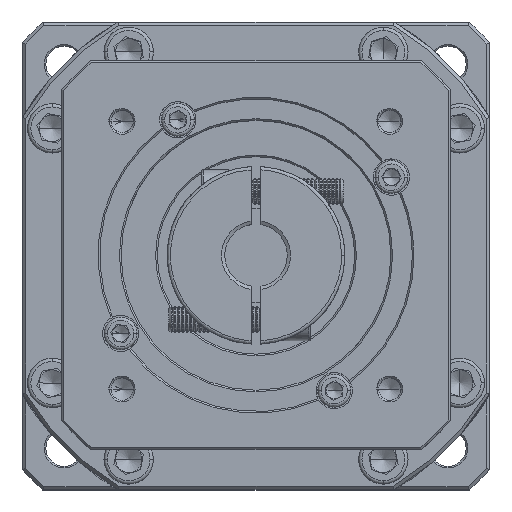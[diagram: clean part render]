
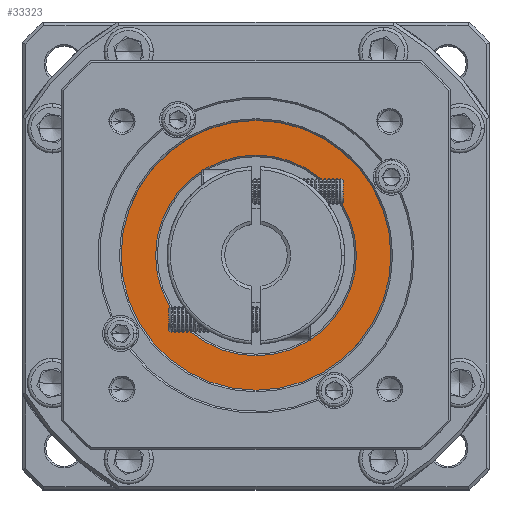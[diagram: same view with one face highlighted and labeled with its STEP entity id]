
A CAD part, top view. The second image highlights one B-rep face of the part: STEP entity #33323.
In plain terms, the highlighted planar face has unit normal (0, 0, 1).
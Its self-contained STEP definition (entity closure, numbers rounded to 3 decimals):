
#2914 = CARTESIAN_POINT ( 'NONE',  ( -68.1, 94.273, -36.533 ) ) ;
#6391 = VERTEX_POINT ( 'NONE', #2914 ) ;
#7756 = CARTESIAN_POINT ( 'NONE',  ( -109.1, 63.773, -36.533 ) ) ;
#8229 = ORIENTED_EDGE ( 'NONE', *, *, #106527, .T. ) ;
#12202 = CARTESIAN_POINT ( 'NONE',  ( -109.1, 94.273, -36.533 ) ) ;
#12867 = EDGE_LOOP ( 'NONE', ( #8229, #51308 ) ) ;
#21007 = DIRECTION ( 'NONE',  ( 1., 0., 0. ) ) ;
#23183 = CIRCLE ( 'NONE', #87464, 30.5 ) ;
#23609 = DIRECTION ( 'NONE',  ( 0., 0., 1. ) ) ;
#31718 = AXIS2_PLACEMENT_3D ( 'NONE', #12202, #23609, #79635 ) ;
#32396 = CARTESIAN_POINT ( 'NONE',  ( -150.1, 94.273, -36.533 ) ) ;
#32718 = CIRCLE ( 'NONE', #142216, 41. ) ;
#33323 = ADVANCED_FACE ( 'NONE', ( #113396, #38833 ), #115349, .T. ) ;
#38576 = EDGE_CURVE ( 'NONE', #57618, #49856, #124116, .T. ) ;
#38833 = FACE_BOUND ( 'NONE', #56185, .T. ) ;
#41533 = DIRECTION ( 'NONE',  ( 0., 0., -1. ) ) ;
#44325 = DIRECTION ( 'NONE',  ( 0., 0., 1. ) ) ;
#46143 = ORIENTED_EDGE ( 'NONE', *, *, #38576, .T. ) ;
#48936 = CARTESIAN_POINT ( 'NONE',  ( -109.1, 124.773, -36.533 ) ) ;
#49856 = VERTEX_POINT ( 'NONE', #7756 ) ;
#51308 = ORIENTED_EDGE ( 'NONE', *, *, #88002, .T. ) ;
#56185 = EDGE_LOOP ( 'NONE', ( #144119, #46143 ) ) ;
#56344 = AXIS2_PLACEMENT_3D ( 'NONE', #134711, #64832, #123797 ) ;
#57618 = VERTEX_POINT ( 'NONE', #48936 ) ;
#64832 = DIRECTION ( 'NONE',  ( 0., 0., -1. ) ) ;
#69545 = AXIS2_PLACEMENT_3D ( 'NONE', #111735, #44325, #21007 ) ;
#79635 = DIRECTION ( 'NONE',  ( 1., 0., 0. ) ) ;
#82324 = VERTEX_POINT ( 'NONE', #32396 ) ;
#82381 = DIRECTION ( 'NONE',  ( 1., 0., 0. ) ) ;
#87464 = AXIS2_PLACEMENT_3D ( 'NONE', #122369, #41533, #120879 ) ;
#88002 = EDGE_CURVE ( 'NONE', #82324, #6391, #32718, .T. ) ;
#93324 = DIRECTION ( 'NONE',  ( 0., 0., 1. ) ) ;
#96562 = CIRCLE ( 'NONE', #69545, 41. ) ;
#106527 = EDGE_CURVE ( 'NONE', #6391, #82324, #96562, .T. ) ;
#111735 = CARTESIAN_POINT ( 'NONE',  ( -109.1, 94.273, -36.533 ) ) ;
#112700 = EDGE_CURVE ( 'NONE', #49856, #57618, #23183, .T. ) ;
#113396 = FACE_OUTER_BOUND ( 'NONE', #12867, .T. ) ;
#115349 = PLANE ( 'NONE',  #31718 ) ;
#120879 = DIRECTION ( 'NONE',  ( 0., -1., 0. ) ) ;
#122369 = CARTESIAN_POINT ( 'NONE',  ( -109.1, 94.273, -36.533 ) ) ;
#123797 = DIRECTION ( 'NONE',  ( 0., -1., 0. ) ) ;
#124116 = CIRCLE ( 'NONE', #56344, 30.5 ) ;
#127138 = CARTESIAN_POINT ( 'NONE',  ( -109.1, 94.273, -36.533 ) ) ;
#134711 = CARTESIAN_POINT ( 'NONE',  ( -109.1, 94.273, -36.533 ) ) ;
#142216 = AXIS2_PLACEMENT_3D ( 'NONE', #127138, #93324, #82381 ) ;
#144119 = ORIENTED_EDGE ( 'NONE', *, *, #112700, .T. ) ;
